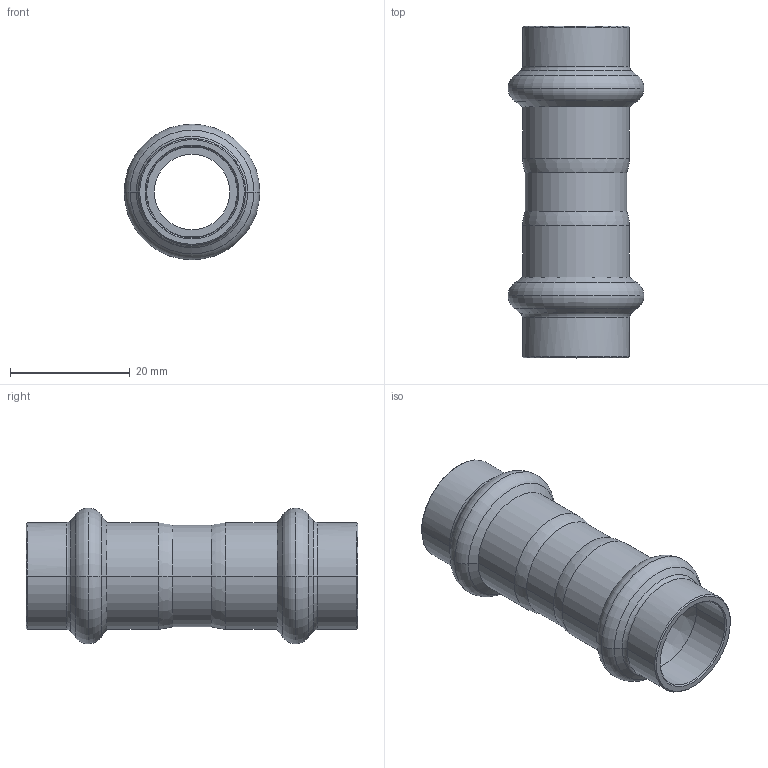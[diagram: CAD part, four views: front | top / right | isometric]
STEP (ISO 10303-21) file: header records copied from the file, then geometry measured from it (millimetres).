
FILE_DESCRIPTION(('CoCreate Modeling STEP Export'),'2;1');
FILE_NAME('8270VW15.stp','2013-01-29T11:56:20',(''),(''),'CoCreate Modeling STEP processor for AP214 (Solid Model)','CoCreate Modeling 17.00A 17-Jun-2010 (C) Parametric Technology GmbH','');
FILE_SCHEMA(('AUTOMOTIVE_DESIGN { 1 0 10303 214 1 1 1 1 }'));
Length unit declared in the file: millimetre
Products named in the file (2): 8270VW15
Assembly tree (1 placements, depth 2):
  8270VW15
    8270VW15
Bounding box: 22.69 x 55.51 x 22.69 mm (x, y, z)
Volume: 5126.3 mm3; surface area: 6441.3 mm2
Topology: 1 solids, 1 shells, 78 faces, 160 edges, 88 vertices
Faces by surface type: torus 28, cylinder 24, cone 20, plane 6
Entity records: 1681 total; most frequent: ORIENTED_EDGE 320, DIRECTION 268, CARTESIAN_POINT 244, EDGE_CURVE 160, AXIS2_PLACEMENT_3D 112, VERTEX_POINT 88, EDGE_LOOP 84, FACE_OUTER_BOUND 78
